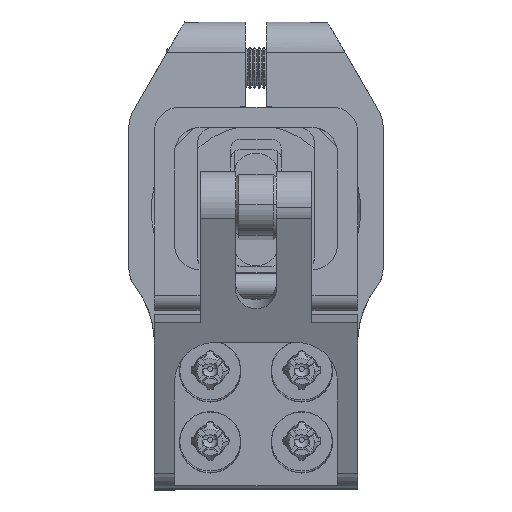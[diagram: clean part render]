
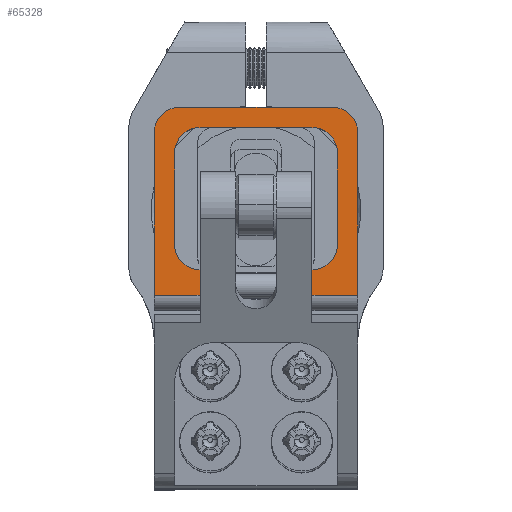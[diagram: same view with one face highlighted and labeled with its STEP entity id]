
A CAD part, top view. The second image highlights one B-rep face of the part: STEP entity #65328.
In plain terms, the highlighted planar face has unit normal (0, 0, 1).
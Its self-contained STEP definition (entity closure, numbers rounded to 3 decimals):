
#369 = VECTOR ( 'NONE', #655, 1000. ) ;
#655 = DIRECTION ( 'NONE',  ( 0., -1., 0. ) ) ;
#2091 = VERTEX_POINT ( 'NONE', #92483 ) ;
#3573 = CARTESIAN_POINT ( 'NONE',  ( -6.209, -15.003, 13.5 ) ) ;
#3882 = VECTOR ( 'NONE', #93487, 1000. ) ;
#7322 = VECTOR ( 'NONE', #104584, 1000. ) ;
#7602 = CARTESIAN_POINT ( 'NONE',  ( -16.209, 3.497, 13.5 ) ) ;
#9240 = CARTESIAN_POINT ( 'NONE',  ( 1.291, 3.497, 13.5 ) ) ;
#9379 = DIRECTION ( 'NONE',  ( 0., -1., 0. ) ) ;
#12781 = ORIENTED_EDGE ( 'NONE', *, *, #155138, .T. ) ;
#13076 = DIRECTION ( 'NONE',  ( 1., 0., 0. ) ) ;
#14262 = DIRECTION ( 'NONE',  ( 1., 0., 0. ) ) ;
#18862 = LINE ( 'NONE', #100128, #95134 ) ;
#20036 = LINE ( 'NONE', #124236, #125416 ) ;
#20851 = AXIS2_PLACEMENT_3D ( 'NONE', #184872, #98983, #13076 ) ;
#21569 = EDGE_CURVE ( 'NONE', #142345, #111234, #122000, .T. ) ;
#23313 = ORIENTED_EDGE ( 'NONE', *, *, #37991, .T. ) ;
#24620 = CIRCLE ( 'NONE', #32013, 2.5 ) ;
#27528 = DIRECTION ( 'NONE',  ( 0., 0., 1. ) ) ;
#27641 = CARTESIAN_POINT ( 'NONE',  ( -16.209, 0.997, 13.5 ) ) ;
#30161 = CARTESIAN_POINT ( 'NONE',  ( -0.709, -1.003, 13.5 ) ) ;
#32013 = AXIS2_PLACEMENT_3D ( 'NONE', #158793, #72950, #173221 ) ;
#32423 = CARTESIAN_POINT ( 'NONE',  ( 1.291, 0.997, 13.5 ) ) ;
#32566 = CARTESIAN_POINT ( 'NONE',  ( -14.209, -1.003, 13.5 ) ) ;
#34381 = VECTOR ( 'NONE', #183423, 1000. ) ;
#35421 = AXIS2_PLACEMENT_3D ( 'NONE', #30161, #130414, #44635 ) ;
#37065 = DIRECTION ( 'NONE',  ( 0., 0., -1. ) ) ;
#37195 = CIRCLE ( 'NONE', #184072, 2.5 ) ;
#37991 = EDGE_CURVE ( 'NONE', #44312, #119225, #42317, .T. ) ;
#38160 = EDGE_CURVE ( 'NONE', #66876, #46605, #151974, .T. ) ;
#40439 = CARTESIAN_POINT ( 'NONE',  ( -0.709, -10.003, 13.5 ) ) ;
#42317 = LINE ( 'NONE', #161251, #118461 ) ;
#42654 = VERTEX_POINT ( 'NONE', #105977 ) ;
#43226 = ORIENTED_EDGE ( 'NONE', *, *, #149637, .T. ) ;
#44312 = VERTEX_POINT ( 'NONE', #27641 ) ;
#44338 = ORIENTED_EDGE ( 'NONE', *, *, #98041, .T. ) ;
#44635 = DIRECTION ( 'NONE',  ( 1., 0., 0. ) ) ;
#46605 = VERTEX_POINT ( 'NONE', #9240 ) ;
#46875 = DIRECTION ( 'NONE',  ( 1., 0., 0. ) ) ;
#47190 = ORIENTED_EDGE ( 'NONE', *, *, #75907, .F. ) ;
#47544 = VECTOR ( 'NONE', #66940, 1000. ) ;
#50164 = EDGE_LOOP ( 'NONE', ( #100983, #166605, #47190, #170488, #56709, #43226, #23313, #148575, #12781, #44338, #130907, #145808, #164173, #59596, #119651, #82962 ) ) ;
#51882 = CARTESIAN_POINT ( 'NONE',  ( -0.709, 1.497, 13.5 ) ) ;
#54806 = DIRECTION ( 'NONE',  ( 1., 0., 0. ) ) ;
#56444 = VERTEX_POINT ( 'NONE', #159371 ) ;
#56709 = ORIENTED_EDGE ( 'NONE', *, *, #38160, .F. ) ;
#57903 = EDGE_CURVE ( 'NONE', #119225, #136311, #155348, .T. ) ;
#59596 = ORIENTED_EDGE ( 'NONE', *, *, #118153, .T. ) ;
#61850 = VERTEX_POINT ( 'NONE', #51882 ) ;
#62105 = CARTESIAN_POINT ( 'NONE',  ( 1.791, -1.003, 13.5 ) ) ;
#65328 = ADVANCED_FACE ( 'NONE', ( #72530 ), #156028, .T. ) ;
#66876 = VERTEX_POINT ( 'NONE', #167402 ) ;
#66940 = DIRECTION ( 'NONE',  ( 0., 1., 0. ) ) ;
#67736 = AXIS2_PLACEMENT_3D ( 'NONE', #32423, #132651, #46875 ) ;
#71961 = DIRECTION ( 'NONE',  ( 1., 0., 0. ) ) ;
#72520 = LINE ( 'NONE', #140161, #34381 ) ;
#72531 = EDGE_CURVE ( 'NONE', #111234, #61850, #149584, .T. ) ;
#72530 = FACE_OUTER_BOUND ( 'NONE', #50164, .T. ) ;
#72950 = DIRECTION ( 'NONE',  ( 0., 0., 1. ) ) ;
#75375 = DIRECTION ( 'NONE',  ( 0., -1., 0. ) ) ;
#75907 = EDGE_CURVE ( 'NONE', #56444, #177846, #148497, .T. ) ;
#78133 = CIRCLE ( 'NONE', #35421, 2.5 ) ;
#81348 = CARTESIAN_POINT ( 'NONE',  ( -0.709, -16.503, 13.5 ) ) ;
#81896 = EDGE_CURVE ( 'NONE', #161336, #171330, #72520, .T. ) ;
#82962 = ORIENTED_EDGE ( 'NONE', *, *, #84069, .T. ) ;
#84069 = EDGE_CURVE ( 'NONE', #171330, #42654, #37195, .T. ) ;
#85652 = LINE ( 'NONE', #81348, #47544 ) ;
#88164 = EDGE_CURVE ( 'NONE', #56444, #46605, #139285, .T. ) ;
#92483 = CARTESIAN_POINT ( 'NONE',  ( -0.709, -15.003, 13.5 ) ) ;
#93182 = CARTESIAN_POINT ( 'NONE',  ( -11.709, -15.003, 13.5 ) ) ;
#93487 = DIRECTION ( 'NONE',  ( 1., 0., 0. ) ) ;
#94766 = CIRCLE ( 'NONE', #132777, 2.5 ) ;
#95134 = VECTOR ( 'NONE', #14262, 1000. ) ;
#98041 = EDGE_CURVE ( 'NONE', #181817, #163489, #94766, .T. ) ;
#98983 = DIRECTION ( 'NONE',  ( 0., 0., -1. ) ) ;
#100128 = CARTESIAN_POINT ( 'NONE',  ( -6.209, -15.003, 13.5 ) ) ;
#100983 = ORIENTED_EDGE ( 'NONE', *, *, #151798, .F. ) ;
#101024 = CARTESIAN_POINT ( 'NONE',  ( 3.791, 3.497, 13.5 ) ) ;
#104584 = DIRECTION ( 'NONE',  ( 1., 0., 0. ) ) ;
#105977 = CARTESIAN_POINT ( 'NONE',  ( -0.709, -12.503, 13.5 ) ) ;
#108582 = CARTESIAN_POINT ( 'NONE',  ( -11.709, -12.503, 13.5 ) ) ;
#111234 = VERTEX_POINT ( 'NONE', #156789 ) ;
#111393 = VECTOR ( 'NONE', #71961, 1000. ) ;
#113045 = CARTESIAN_POINT ( 'NONE',  ( -16.209, -15.003, 13.5 ) ) ;
#113308 = CARTESIAN_POINT ( 'NONE',  ( -6.209, -6.503, 13.5 ) ) ;
#116616 = EDGE_CURVE ( 'NONE', #2091, #177846, #18862, .T. ) ;
#118153 = EDGE_CURVE ( 'NONE', #61850, #161336, #78133, .T. ) ;
#118461 = VECTOR ( 'NONE', #75375, 1000. ) ;
#119225 = VERTEX_POINT ( 'NONE', #113045 ) ;
#119651 = ORIENTED_EDGE ( 'NONE', *, *, #81896, .T. ) ;
#122000 = CIRCLE ( 'NONE', #20851, 2.5 ) ;
#122921 = CARTESIAN_POINT ( 'NONE',  ( -11.709, -10.003, 13.5 ) ) ;
#124236 = CARTESIAN_POINT ( 'NONE',  ( -11.709, -16.503, 13.5 ) ) ;
#125416 = VECTOR ( 'NONE', #167485, 1000. ) ;
#126013 = CARTESIAN_POINT ( 'NONE',  ( 1.791, -10.003, 13.5 ) ) ;
#127731 = DIRECTION ( 'NONE',  ( 1., 0., 0. ) ) ;
#128954 = CARTESIAN_POINT ( 'NONE',  ( -14.209, -10.003, 13.5 ) ) ;
#130414 = DIRECTION ( 'NONE',  ( 0., 0., -1. ) ) ;
#130907 = ORIENTED_EDGE ( 'NONE', *, *, #151356, .F. ) ;
#132651 = DIRECTION ( 'NONE',  ( 0., 0., 1. ) ) ;
#132777 = AXIS2_PLACEMENT_3D ( 'NONE', #122921, #37065, #137310 ) ;
#136311 = VERTEX_POINT ( 'NONE', #93182 ) ;
#137310 = DIRECTION ( 'NONE',  ( 1., 0., 0. ) ) ;
#139285 = CIRCLE ( 'NONE', #67736, 2.5 ) ;
#140161 = CARTESIAN_POINT ( 'NONE',  ( 1.791, 1.497, 13.5 ) ) ;
#140669 = DIRECTION ( 'NONE',  ( 0., 0., -1. ) ) ;
#142345 = VERTEX_POINT ( 'NONE', #32566 ) ;
#144337 = CARTESIAN_POINT ( 'NONE',  ( 3.791, -15.003, 13.5 ) ) ;
#145808 = ORIENTED_EDGE ( 'NONE', *, *, #21569, .T. ) ;
#148497 = LINE ( 'NONE', #101024, #369 ) ;
#148575 = ORIENTED_EDGE ( 'NONE', *, *, #57903, .T. ) ;
#149584 = LINE ( 'NONE', #157784, #111393 ) ;
#149637 = EDGE_CURVE ( 'NONE', #66876, #44312, #24620, .T. ) ;
#150910 = LINE ( 'NONE', #151691, #184564 ) ;
#151356 = EDGE_CURVE ( 'NONE', #142345, #163489, #150910, .T. ) ;
#151691 = CARTESIAN_POINT ( 'NONE',  ( -14.209, 1.497, 13.5 ) ) ;
#151798 = EDGE_CURVE ( 'NONE', #2091, #42654, #85652, .T. ) ;
#151974 = LINE ( 'NONE', #7602, #3882 ) ;
#155138 = EDGE_CURVE ( 'NONE', #136311, #181817, #20036, .T. ) ;
#155348 = LINE ( 'NONE', #3573, #7322 ) ;
#156028 = PLANE ( 'NONE',  #177120 ) ;
#156789 = CARTESIAN_POINT ( 'NONE',  ( -11.709, 1.497, 13.5 ) ) ;
#157784 = CARTESIAN_POINT ( 'NONE',  ( -14.209, 1.497, 13.5 ) ) ;
#158793 = CARTESIAN_POINT ( 'NONE',  ( -13.709, 0.997, 13.5 ) ) ;
#159371 = CARTESIAN_POINT ( 'NONE',  ( 3.791, 0.997, 13.5 ) ) ;
#161251 = CARTESIAN_POINT ( 'NONE',  ( -16.209, 3.497, 13.5 ) ) ;
#161336 = VERTEX_POINT ( 'NONE', #62105 ) ;
#163489 = VERTEX_POINT ( 'NONE', #128954 ) ;
#164173 = ORIENTED_EDGE ( 'NONE', *, *, #72531, .T. ) ;
#166605 = ORIENTED_EDGE ( 'NONE', *, *, #116616, .T. ) ;
#167402 = CARTESIAN_POINT ( 'NONE',  ( -13.709, 3.497, 13.5 ) ) ;
#167485 = DIRECTION ( 'NONE',  ( 0., 1., 0. ) ) ;
#170488 = ORIENTED_EDGE ( 'NONE', *, *, #88164, .T. ) ;
#171330 = VERTEX_POINT ( 'NONE', #126013 ) ;
#173221 = DIRECTION ( 'NONE',  ( 1., 0., 0. ) ) ;
#177120 = AXIS2_PLACEMENT_3D ( 'NONE', #113308, #27528, #127731 ) ;
#177846 = VERTEX_POINT ( 'NONE', #144337 ) ;
#181817 = VERTEX_POINT ( 'NONE', #108582 ) ;
#183423 = DIRECTION ( 'NONE',  ( 0., -1., 0. ) ) ;
#184072 = AXIS2_PLACEMENT_3D ( 'NONE', #40439, #140669, #54806 ) ;
#184564 = VECTOR ( 'NONE', #9379, 1000. ) ;
#184872 = CARTESIAN_POINT ( 'NONE',  ( -11.709, -1.003, 13.5 ) ) ;
